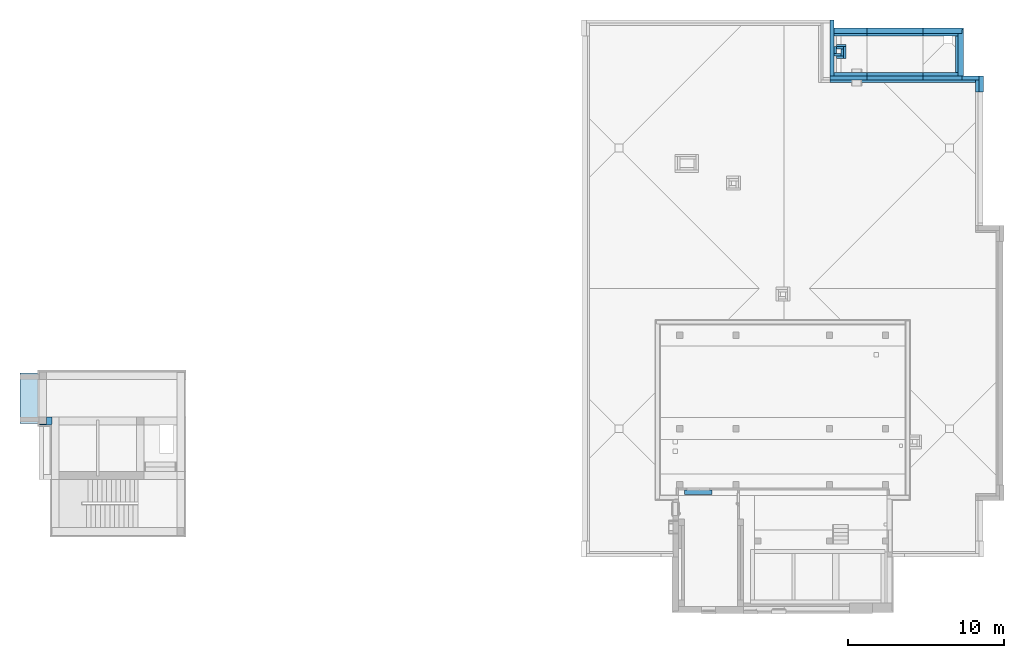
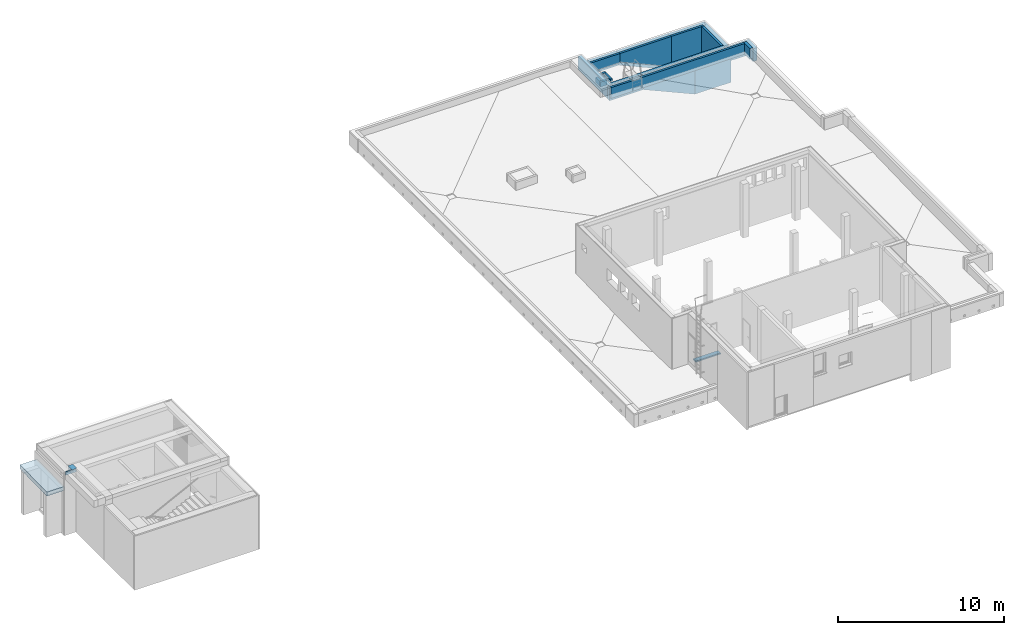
# One storey, part 8 of 17: 27 walls, 1 roof, 1 stair, 8 openings.
"""IFC4 building model written with IfcOpenShell, lengths in metres."""

from ifc_helpers import new_model, entity, si_unit, converted_unit, derived_unit, frame, frame_2d, origin, origin_with_axes, place, context, subcontext, project, spatial, polyline, rectangle, outline, extrude, clip, halfspace, faceted_brep, material, layer, layer_set, layer_usage, element, save


model = new_model("IFC4")

# Units and contexts
model_context = context("Model", 3, precision=1e-05, world=origin())
body_context = subcontext(model_context, "Body", "Model", "MODEL_VIEW")
ifc_project = project(units=[si_unit("LENGTHUNIT", "METRE"), si_unit("AREAUNIT", "SQUARE_METRE"), si_unit("VOLUMEUNIT", "CUBIC_METRE"), si_unit("MASSUNIT", "GRAM", prefix="KILO"), converted_unit("PLANEANGLEUNIT", "DEGREE", entity("IfcPlaneAngleMeasure", 0.0174532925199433), si_unit("PLANEANGLEUNIT", "RADIAN"), dimensions=[0, 0, 0, 0, 0, 0, 0]), derived_unit("THERMALTRANSMITTANCEUNIT", [(si_unit("POWERUNIT", "WATT"), 1), (si_unit("THERMODYNAMICTEMPERATUREUNIT", "KELVIN"), -1), (si_unit("LENGTHUNIT", "METRE"), -2)]), derived_unit("VOLUMETRICFLOWRATEUNIT", [(si_unit("LENGTHUNIT", "METRE"), 3), (converted_unit("TIMEUNIT", "hour", entity("IfcTimeMeasure", 3600.0), si_unit("TIMEUNIT", "SECOND"), dimensions=[0, 0, 1, 0, 0, 0, 0]), -1), (si_unit("LENGTHUNIT", "METRE"), -1)])], contexts=[model_context])

# Site, building, storey
site_placement = place(None, origin())
site = spatial("IfcSite", under=ifc_project, at=site_placement, Name="3. ASŘ", CompositionType="ELEMENT")
building_placement = place(site_placement, origin())
building = spatial("IfcBuilding", under=site, at=building_placement, Name="Pavilon C", CompositionType="ELEMENT")
storey_placement = place(building_placement, frame((0.0, 0.0, 13.8)))
storey = spatial("IfcBuildingStorey", under=building, at=storey_placement, Name="Půdorys 5.NP", CompositionType="ELEMENT", Elevation=13.8)

# Walls
ifc_material_1 = material(Name="EPS")
ifc_layer_1 = layer(ifc_material_1, 0.1)
ifc_material_2 = material(Name="ZDIVO Z CDm")
ifc_layer_2 = layer(ifc_material_2, 0.25)
ifc_layer_set_1 = layer_set([ifc_layer_1, ifc_layer_2])
ifc_layer_usage_1 = layer_usage(ifc_layer_set_1, "AXIS2", "POSITIVE", -0.1)
wall_1_placement = place(storey_placement, frame((46.35, 32.9, -1.7), z_axis=(0.0, 0.0, 1.0), x_axis=(-1.0, 0.0, 0.0)))
element("IfcWall", 1, at=wall_1_placement, inside=storey, material=ifc_layer_usage_1, Name="ZDIVO Z CDm", context=body_context, shape_type="Clipping", body=[
    clip(extrude(rectangle(XDim=3.6, YDim=0.35, at=frame_2d((1.8, 0.175), x_axis=(1.0, 0.0))), origin_with_axes(), (0.0, 0.0, 1.0), 2.45), halfspace(frame((1.8, 0.175, 0.8), z_axis=(-0.406138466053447, 0.0, 0.913811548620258), x_axis=(-0.913811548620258, 0.0, -0.406138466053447)), True)),
])
ifc_material_3 = material(Name="EPS")
ifc_layer_3 = layer(ifc_material_3, 0.1)
ifc_material_4 = material(Name="ZDIVO Z CDm")
ifc_layer_4 = layer(ifc_material_4, 0.25)
ifc_layer_set_2 = layer_set([ifc_layer_3, ifc_layer_4])
ifc_layer_usage_2 = layer_usage(ifc_layer_set_2, "AXIS2", "POSITIVE", -0.1)
wall_2_placement = place(storey_placement, frame((48.95, 32.9, -1.7), z_axis=(0.0, 0.0, 1.0), x_axis=(-1.0, 0.0, 0.0)))
element("IfcWall", 2, at=wall_2_placement, inside=storey, material=ifc_layer_usage_2, Name="ZDIVO Z CDm", context=body_context, shape_type="SweptSolid", body=[
    extrude(outline(polyline([(-2.5, 0.0), (-2.5, -0.25), (-2.6, -0.25), (-2.6, -0.35), (0.0, -0.35), (0.0, 0.0), (-2.5, 0.0)])), frame((2.6, 0.35, 0.0), z_axis=(0.0, 0.0, 1.0), x_axis=(1.0, 0.0, 0.0)), (0.0, 0.0, 1.0), 2.45),
])
ifc_material_5 = material(Name="EPS")
ifc_layer_5 = layer(ifc_material_5, 0.1)
ifc_material_6 = material(Name="ZDIVO Z CDm")
ifc_layer_6 = layer(ifc_material_6, 0.25)
ifc_layer_set_3 = layer_set([ifc_layer_5, ifc_layer_6])
ifc_layer_usage_3 = layer_usage(ifc_layer_set_3, "AXIS2", "POSITIVE", -0.1)
wall_3_placement = place(storey_placement, frame((48.95, 29.82, -1.7), z_axis=(0.0, 0.0, 1.0), x_axis=(0.0, 1.0, 0.0)))
element("IfcWall", 3, at=wall_3_placement, inside=storey, material=ifc_layer_usage_3, Name="ZDIVO Z CDm", context=body_context, shape_type="SweptSolid", body=[
    extrude(outline(polyline([(0.0, -0.35), (2.98, -0.35), (2.98, -0.25), (2.73, -0.25), (2.73, 0.0), (0.0, 0.0), (0.0, -0.35)])), frame((0.0, 0.35, 0.0), z_axis=(0.0, 0.0, 1.0), x_axis=(1.0, 0.0, 0.0)), (0.0, 0.0, 1.0), 2.45),
])
ifc_material_7 = material(Name="ZDIVO Z CDm")
ifc_layer_7 = layer(ifc_material_7, 0.150000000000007)
ifc_layer_set_4 = layer_set([ifc_layer_7])
ifc_layer_usage_4 = layer_usage(ifc_layer_set_4, "AXIS2", "POSITIVE", 0.0)
wall_4_placement = place(storey_placement, frame((41.1, 31.2554635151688, -0.1), z_axis=(0.0, 0.0, 1.0), x_axis=(-1.0, 0.0, 0.0)))
element("IfcWall", 4, at=wall_4_placement, inside=storey, material=ifc_layer_usage_4, Name="ZDIVO Z CDm", context=body_context, shape_type="SweptSolid", body=[
    extrude(rectangle(XDim=0.449999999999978, YDim=0.150000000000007, at=frame_2d((0.224999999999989, 0.0750000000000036), x_axis=(1.0, 0.0))), origin_with_axes(), (0.0, 0.0, 1.0), 0.35),
])
ifc_material_8 = material(Name="ZDIVO Z CDm")
ifc_layer_8 = layer(ifc_material_8, 0.150000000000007)
ifc_layer_set_5 = layer_set([ifc_layer_8])
ifc_layer_usage_5 = layer_usage(ifc_layer_set_5, "AXIS2", "POSITIVE", 0.0)
wall_5_placement = place(storey_placement, frame((41.25, 31.1054635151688, -0.1), z_axis=(0.0, 0.0, 1.0), x_axis=(0.0, 1.0, 0.0)))
element("IfcWall", 5, at=wall_5_placement, inside=storey, material=ifc_layer_usage_5, Name="ZDIVO Z CDm", context=body_context, shape_type="SweptSolid", body=[
    extrude(rectangle(XDim=0.450000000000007, YDim=0.150000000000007, at=frame_2d((0.225000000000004, 0.0750000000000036), x_axis=(1.0, 0.0))), origin_with_axes(), (0.0, 0.0, 1.0), 0.35),
])
ifc_material_9 = material(Name="ZDIVO Z CDm")
ifc_layer_9 = layer(ifc_material_9, 0.150000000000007)
ifc_layer_set_6 = layer_set([ifc_layer_9])
ifc_layer_usage_6 = layer_usage(ifc_layer_set_6, "AXIS2", "POSITIVE", 0.0)
wall_6_placement = place(storey_placement, frame((40.8, 31.5554635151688, -0.1)))
element("IfcWall", 6, at=wall_6_placement, inside=storey, material=ifc_layer_usage_6, Name="ZDIVO Z CDm", context=body_context, shape_type="SweptSolid", body=[
    extrude(rectangle(XDim=0.449999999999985, YDim=0.150000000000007, at=frame_2d((0.224999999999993, 0.0750000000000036), x_axis=(1.0, 0.0))), origin_with_axes(), (0.0, 0.0, 1.0), 0.35),
])
ifc_material_10 = material(Name="ZDIVO Z CDm")
ifc_layer_10 = layer(ifc_material_10, 0.150000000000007)
ifc_layer_set_7 = layer_set([ifc_layer_10])
ifc_layer_usage_7 = layer_usage(ifc_layer_set_7, "AXIS2", "POSITIVE", 0.0)
wall_7_placement = place(storey_placement, frame((40.8, 31.2554635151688, -0.1), z_axis=(0.0, 0.0, 1.0), x_axis=(0.0, 1.0, 0.0)))
element("IfcWall", 7, at=wall_7_placement, inside=storey, material=ifc_layer_usage_7, Name="ZDIVO Z CDm", context=body_context, shape_type="SweptSolid", body=[
    extrude(rectangle(XDim=0.450000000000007, YDim=0.150000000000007, at=frame_2d((0.225000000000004, 0.0750000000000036), x_axis=(1.0, 0.0))), origin_with_axes(), (0.0, 0.0, 1.0), 0.35),
])
ifc_material_11 = material(Name="EPS")
ifc_layer_11 = layer(ifc_material_11, 0.1)
ifc_material_12 = material(Name="ZDIVO Z CDm")
ifc_layer_12 = layer(ifc_material_12, 0.25)
ifc_layer_set_8 = layer_set([ifc_layer_11, ifc_layer_12])
ifc_layer_usage_8 = layer_usage(ifc_layer_set_8, "AXIS2", "POSITIVE", -0.1)
wall_8_placement = place(storey_placement, frame((42.75, 32.9, -0.1), z_axis=(0.0, 0.0, 1.0), x_axis=(-1.0, 0.0, 0.0)))
element("IfcWall", 8, at=wall_8_placement, inside=storey, material=ifc_layer_usage_8, Name="ZDIVO Z CDm", context=body_context, shape_type="SweptSolid", body=[
    extrude(rectangle(XDim=2.1, YDim=0.35, at=frame_2d((1.05, 0.175), x_axis=(1.0, 0.0))), origin_with_axes(), (0.0, 0.0, 1.0), 0.85),
])
ifc_material_13 = material(Name="ZDIVO Z CDm")
ifc_layer_13 = layer(ifc_material_13, 0.25)
ifc_layer_set_9 = layer_set([ifc_layer_13])
ifc_layer_usage_9 = layer_usage(ifc_layer_set_9, "AXIS2", "POSITIVE", 0.0)
wall_9_placement = place(storey_placement, frame((40.65, 29.82, -0.1), z_axis=(0.0, 0.0, 1.0), x_axis=(0.0, 1.0, 0.0)))
element("IfcWall", 9, at=wall_9_placement, inside=storey, material=ifc_layer_usage_9, Name="ZDIVO Z CDm", context=body_context, shape_type="SweptSolid", body=[
    extrude(rectangle(XDim=3.6, YDim=0.25, at=frame_2d((1.8, 0.125), x_axis=(1.0, 0.0))), origin_with_axes(), (0.0, 0.0, 1.0), 0.95),
])

# Wall, openings
ifc_material_14 = material(Name="ZDIVO Z CDm")
ifc_layer_14 = layer(ifc_material_14, 0.25)
ifc_layer_set_10 = layer_set([ifc_layer_14])
ifc_layer_usage_10 = layer_usage(ifc_layer_set_10, "AXIS2", "POSITIVE", 0.0)
wall_10_placement = place(storey_placement, frame((42.75, 29.82, -0.1), z_axis=(0.0, 0.0, 1.0), x_axis=(-1.0, 0.0, 0.0)))
wall_10 = element("IfcWall", 10, at=wall_10_placement, inside=storey, material=ifc_layer_usage_10, Name="ZDIVO Z CDm", context=body_context, shape_type="SweptSolid", body=[
    extrude(rectangle(XDim=2.35, YDim=0.25, at=frame_2d((1.175, 0.125), x_axis=(1.0, 0.0))), origin_with_axes(), (0.0, 0.0, 1.0), 0.95),
])
opening_1_placement = place(wall_10_placement, frame((0.325, 0.0, 0.15), z_axis=(0.0, 1.0, 0.0), x_axis=(0.0, 0.0, 1.0)))
element("IfcOpeningElement", 11, at=opening_1_placement, cuts=wall_10, Name="Prostup stěnou", ObjectType="Opening", context=body_context, shape_type="SweptSolid", body=[
    extrude(outline(polyline([(0.0, 0.15), (0.15, 0.15), (0.15, 0.0), (0.0, 0.0), (0.0, 0.15)])), origin_with_axes(), (0.0, 0.0, 1.0), 0.25),
])
opening_2_placement = place(wall_10_placement, frame((1.525, 0.0, 0.15), z_axis=(0.0, 1.0, 0.0), x_axis=(0.0, 0.0, 1.0)))
element("IfcOpeningElement", 12, at=opening_2_placement, cuts=wall_10, Name="Prostup stěnou", ObjectType="Opening", context=body_context, shape_type="SweptSolid", body=[
    extrude(outline(polyline([(0.0, 0.15), (0.15, 0.15), (0.15, 0.0), (0.0, 0.0), (0.0, 0.15)])), origin_with_axes(), (0.0, 0.0, 1.0), 0.25),
])

ifc_material_15 = material(Name="ZDIVO Z CDm")
ifc_layer_15 = layer(ifc_material_15, 0.25)
ifc_layer_set_11 = layer_set([ifc_layer_15])
ifc_layer_usage_11 = layer_usage(ifc_layer_set_11, "AXIS2", "POSITIVE", 0.0)
wall_11_placement = place(storey_placement, frame((46.35, 29.82, -1.7), z_axis=(0.0, 0.0, 1.0), x_axis=(-1.0, 0.0, 0.0)))
wall_11 = element("IfcWall", 13, at=wall_11_placement, inside=storey, material=ifc_layer_usage_11, Name="ZDIVO Z CDm", context=body_context, shape_type="Clipping", body=[
    clip(extrude(rectangle(XDim=3.6, YDim=0.25, at=frame_2d((1.8, 0.125), x_axis=(1.0, 0.0))), origin_with_axes(), (0.0, 0.0, 1.0), 2.55), halfspace(frame((1.8, 0.125, 0.8), z_axis=(-0.406138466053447, 0.0, 0.913811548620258), x_axis=(-0.913811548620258, 0.0, -0.406138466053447)), True)),
])
opening_3_placement = place(wall_11_placement, frame((2.725, 0.0, 1.75), z_axis=(0.0, 1.0, 0.0), x_axis=(0.0, 0.0, 1.0)))
element("IfcOpeningElement", 14, at=opening_3_placement, cuts=wall_11, Name="Prostup stěnou", ObjectType="Opening", context=body_context, shape_type="SweptSolid", body=[
    extrude(outline(polyline([(0.0, 0.15), (0.15, 0.15), (0.15, 0.0), (0.0, 0.0), (0.0, 0.15)])), origin_with_axes(), (0.0, 0.0, 1.0), 0.25),
])
opening_4_placement = place(wall_11_placement, frame((1.525, 0.0, 1.75), z_axis=(0.0, 1.0, 0.0), x_axis=(0.0, 0.0, 1.0)))
element("IfcOpeningElement", 15, at=opening_4_placement, cuts=wall_11, Name="Prostup stěnou", ObjectType="Opening", context=body_context, shape_type="SweptSolid", body=[
    extrude(outline(polyline([(0.0, 0.15), (0.15, 0.15), (0.15, 0.0), (0.0, 0.0), (0.0, 0.15)])), origin_with_axes(), (0.0, 0.0, 1.0), 0.25),
])
opening_5_placement = place(wall_11_placement, frame((0.325, 0.0, 1.75), z_axis=(0.0, 1.0, 0.0), x_axis=(0.0, 0.0, 1.0)))
element("IfcOpeningElement", 16, at=opening_5_placement, cuts=wall_11, Name="Prostup stěnou", ObjectType="Opening", context=body_context, shape_type="SweptSolid", body=[
    extrude(outline(polyline([(0.0, 0.15), (0.15, 0.15), (0.15, 0.0), (0.0, 0.0), (0.0, 0.15)])), origin_with_axes(), (0.0, 0.0, 1.0), 0.25),
])

ifc_material_16 = material(Name="ZDIVO Z CDm")
ifc_layer_16 = layer(ifc_material_16, 0.25)
ifc_layer_set_12 = layer_set([ifc_layer_16])
ifc_layer_usage_12 = layer_usage(ifc_layer_set_12, "AXIS2", "POSITIVE", 0.0)
wall_12_placement = place(storey_placement, frame((48.85, 29.82, -1.7), z_axis=(0.0, 0.0, 1.0), x_axis=(-1.0, 0.0, 0.0)))
wall_12 = element("IfcWall", 17, at=wall_12_placement, inside=storey, material=ifc_layer_usage_12, Name="ZDIVO Z CDm", context=body_context, shape_type="SweptSolid", body=[
    extrude(rectangle(XDim=2.5, YDim=0.25, at=frame_2d((1.25, 0.125), x_axis=(1.0, 0.0))), origin_with_axes(), (0.0, 0.0, 1.0), 2.55),
])
opening_6_placement = place(wall_12_placement, frame((0.425, 0.0, 1.75), z_axis=(0.0, 1.0, 0.0), x_axis=(0.0, 0.0, 1.0)))
element("IfcOpeningElement", 18, at=opening_6_placement, cuts=wall_12, Name="Prostup stěnou", ObjectType="Opening", context=body_context, shape_type="SweptSolid", body=[
    extrude(outline(polyline([(0.0, 0.15), (0.15, 0.15), (0.15, 0.0), (0.0, 0.0), (0.0, 0.15)])), origin_with_axes(), (0.0, 0.0, 1.0), 0.25),
])
opening_7_placement = place(wall_12_placement, frame((1.625, 0.0, 1.75), z_axis=(0.0, 1.0, 0.0), x_axis=(0.0, 0.0, 1.0)))
element("IfcOpeningElement", 19, at=opening_7_placement, cuts=wall_12, Name="Prostup stěnou", ObjectType="Opening", context=body_context, shape_type="SweptSolid", body=[
    extrude(outline(polyline([(0.0, 0.15), (0.15, 0.15), (0.15, 0.0), (0.0, 0.0), (0.0, 0.15)])), origin_with_axes(), (0.0, 0.0, 1.0), 0.25),
])

# Wall
ifc_material_17 = material(Name="ZELEZOBETONOVÁ KCE")
ifc_layer_17 = layer(ifc_material_17, 0.3)
ifc_layer_set_13 = layer_set([ifc_layer_17])
ifc_layer_usage_13 = layer_usage(ifc_layer_set_13, "AXIS2", "POSITIVE", 0.0)
wall_13_placement = place(storey_placement, frame((50.25, 28.8, -0.1), z_axis=(0.0, 0.0, 1.0), x_axis=(0.0, 1.0, 0.0)))
element("IfcWall", 20, at=wall_13_placement, inside=storey, material=ifc_layer_usage_13, Name="ZELEZOBETONOVÁ KCE", context=body_context, shape_type="SweptSolid", body=[
    extrude(rectangle(XDim=1.02, YDim=0.3, at=frame_2d((0.51, 0.15), x_axis=(1.0, 0.0))), origin_with_axes(), (0.0, 0.0, 1.0), 0.95),
])

# Wall, opening
ifc_material_18 = material(Name="ZDIVO Z CDm")
ifc_layer_18 = layer(ifc_material_18, 0.25)
ifc_layer_set_14 = layer_set([ifc_layer_18])
ifc_layer_usage_14 = layer_usage(ifc_layer_set_14, "AXIS2", "POSITIVE", 0.0)
wall_14_placement = place(storey_placement, frame((49.95, 29.82, -0.1), z_axis=(0.0, 0.0, 1.0), x_axis=(-1.0, 0.0, 0.0)))
wall_14 = element("IfcWall", 21, at=wall_14_placement, inside=storey, material=ifc_layer_usage_14, Name="ZDIVO Z CDm", context=body_context, shape_type="SweptSolid", body=[
    extrude(rectangle(XDim=1.1, YDim=0.25, at=frame_2d((0.55, 0.125), x_axis=(1.0, 0.0))), origin_with_axes(), (0.0, 0.0, 1.0), 0.95),
])
opening_8_placement = place(wall_14_placement, frame((0.325, 0.0, 0.15), z_axis=(0.0, 1.0, 0.0), x_axis=(0.0, 0.0, 1.0)))
element("IfcOpeningElement", 22, at=opening_8_placement, cuts=wall_14, Name="Prostup stěnou", ObjectType="Opening", context=body_context, shape_type="SweptSolid", body=[
    extrude(outline(polyline([(0.0, 0.15), (0.15, 0.15), (0.15, 0.0), (0.0, 0.0), (0.0, 0.15)])), origin_with_axes(), (0.0, 0.0, 1.0), 0.25),
])

# Walls
ifc_material_19 = material(Name="ZELEZOBETONOVÁ KCE")
ifc_layer_19 = layer(ifc_material_19, 0.45)
ifc_material_20 = material(Name="LIGNOPOR")
ifc_layer_20 = layer(ifc_material_20, 0.05)
ifc_layer_set_15 = layer_set([ifc_layer_19, ifc_layer_20])
ifc_layer_usage_15 = layer_usage(ifc_layer_set_15, "AXIS2", "POSITIVE", 0.0)
wall_15_placement = place(storey_placement, frame((-9.52499999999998, 7.95, 3.45), z_axis=(0.0, 0.0, 1.0), x_axis=(-1.0, 0.0, 0.0)))
element("IfcWall", 23, at=wall_15_placement, inside=storey, material=ifc_layer_usage_15, context=body_context, shape_type="SweptSolid", body=[
    extrude(outline(polyline([(-0.799999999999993, -0.5), (-0.45, -0.5), (-0.45, -0.05), (0.0, -0.05), (0.0, 0.0), (-0.75, 0.0), (-0.75, -0.05), (-0.799999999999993, -0.05), (-0.799999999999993, -0.5)])), frame((0.799999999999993, 0.5, 0.0), z_axis=(0.0, 0.0, 1.0), x_axis=(1.0, 0.0, 0.0)), (0.0, 0.0, 1.0), 0.25),
])
ifc_material_21 = material(Name="MINERÁLNÍ VATA")
ifc_layer_21 = layer(ifc_material_21, 0.22)
ifc_layer_set_16 = layer_set([ifc_layer_21])
ifc_layer_usage_16 = layer_usage(ifc_layer_set_16, "AXIS2", "POSITIVE", 0.0)
wall_16_placement = place(storey_placement, frame((49.95, 28.8, 0.16), z_axis=(0.0, 0.0, 1.0), x_axis=(0.0, 1.0, 0.0)))
element("IfcWall", 24, at=wall_16_placement, inside=storey, material=ifc_layer_usage_16, Name="MINERÁLNÍ VATA", context=body_context, shape_type="SweptSolid", body=[
    extrude(rectangle(XDim=0.77, YDim=0.22, at=frame_2d((0.385, 0.11), x_axis=(1.0, 0.0))), origin_with_axes(), (0.0, 0.0, 1.0), 0.790000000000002),
])
ifc_material_22 = material(Name="MINERÁLNÍ VATA")
ifc_layer_22 = layer(ifc_material_22, 0.15)
ifc_layer_set_17 = layer_set([ifc_layer_22])
ifc_layer_usage_17 = layer_usage(ifc_layer_set_17, "AXIS2", "POSITIVE", 0.0)
wall_17_placement = place(storey_placement, frame((49.73, 29.57, 0.16), z_axis=(0.0, 0.0, 1.0), x_axis=(-1.0, 0.0, 0.0)))
element("IfcWall", 25, at=wall_17_placement, inside=storey, material=ifc_layer_usage_17, Name="MINERÁLNÍ VATA", context=body_context, shape_type="SweptSolid", body=[
    extrude(rectangle(XDim=9.33, YDim=0.15, at=frame_2d((4.665, 0.075), x_axis=(1.0, 0.0))), origin_with_axes(), (0.0, 0.0, 1.0), 0.790000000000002),
])
ifc_material_23 = material(Name="MINERÁLNÍ VATA")
ifc_layer_23 = layer(ifc_material_23, 0.15)
ifc_layer_set_18 = layer_set([ifc_layer_23])
ifc_layer_usage_18 = layer_usage(ifc_layer_set_18, "AXIS2", "POSITIVE", 0.0)
wall_18_placement = place(storey_placement, frame((40.8, 31.7054635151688, 0.16)))
element("IfcWall", 26, at=wall_18_placement, inside=storey, material=ifc_layer_usage_18, Name="MINERÁLNÍ VATA", context=body_context, shape_type="SweptSolid", body=[
    extrude(rectangle(XDim=0.599999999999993, YDim=0.15, at=frame_2d((0.299999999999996, 0.075), x_axis=(1.0, 0.0))), origin_with_axes(), (0.0, 0.0, 1.0), 0.19),
])
ifc_material_24 = material(Name="MINERÁLNÍ VATA")
ifc_layer_24 = layer(ifc_material_24, 0.15)
ifc_layer_set_19 = layer_set([ifc_layer_24])
ifc_layer_usage_19 = layer_usage(ifc_layer_set_19, "AXIS2", "POSITIVE", 0.0)
wall_19_placement = place(storey_placement, frame((41.25, 31.7054635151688, 0.16), z_axis=(0.0, 0.0, 1.0), x_axis=(0.0, -1.0, 0.0)))
element("IfcWall", 27, at=wall_19_placement, inside=storey, material=ifc_layer_usage_19, Name="MINERÁLNÍ VATA", context=body_context, shape_type="SweptSolid", body=[
    extrude(rectangle(XDim=0.750000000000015, YDim=0.15, at=frame_2d((0.375000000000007, 0.075), x_axis=(1.0, 0.0))), origin_with_axes(), (0.0, 0.0, 1.0), 0.19),
])
ifc_material_25 = material(Name="MINERÁLNÍ VATA")
ifc_layer_25 = layer(ifc_material_25, 0.15)
ifc_layer_set_20 = layer_set([ifc_layer_25])
ifc_layer_usage_20 = layer_usage(ifc_layer_set_20, "AXIS2", "POSITIVE", 0.0)
wall_20_placement = place(storey_placement, frame((41.25, 31.1054635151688, 0.16), z_axis=(0.0, 0.0, 1.0), x_axis=(-1.0, 0.0, 0.0)))
element("IfcWall", 28, at=wall_20_placement, inside=storey, material=ifc_layer_usage_20, Name="MINERÁLNÍ VATA", context=body_context, shape_type="SweptSolid", body=[
    extrude(rectangle(XDim=0.449999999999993, YDim=0.15, at=frame_2d((0.224999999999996, 0.075), x_axis=(1.0, 0.0))), origin_with_axes(), (0.0, 0.0, 1.0), 0.19),
])
ifc_material_26 = material(Name="MINERÁLNÍ VATA")
ifc_layer_26 = layer(ifc_material_26, 0.15)
ifc_layer_set_21 = layer_set([ifc_layer_26])
ifc_layer_usage_21 = layer_usage(ifc_layer_set_21, "AXIS2", "POSITIVE", 0.0)
wall_21_placement = place(storey_placement, frame((40.65, 32.4, 0.16)))
element("IfcWall", 29, at=wall_21_placement, inside=storey, material=ifc_layer_usage_21, Name="MINERÁLNÍ VATA", context=body_context, shape_type="SweptSolid", body=[
    extrude(rectangle(XDim=2.1, YDim=0.15, at=frame_2d((1.05, 0.075), x_axis=(1.0, 0.0))), origin_with_axes(), (0.0, 0.0, 1.0), 0.69),
])
ifc_material_27 = material(Name="MINERÁLNÍ VATA")
ifc_layer_27 = layer(ifc_material_27, 0.15)
ifc_layer_set_22 = layer_set([ifc_layer_27])
ifc_layer_usage_22 = layer_usage(ifc_layer_set_22, "AXIS2", "POSITIVE", 0.0)
wall_22_placement = place(storey_placement, frame((42.75, 32.4, -1.39400000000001)))
element("IfcWall", 30, at=wall_22_placement, inside=storey, material=ifc_layer_usage_22, Name="MINERÁLNÍ VATA", context=body_context, shape_type="Clipping", body=[
    clip(extrude(rectangle(XDim=3.6, YDim=0.15, at=frame_2d((1.8, 0.075), x_axis=(1.0, 0.0))), origin_with_axes(), (0.0, 0.0, 1.0), 2.24400000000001), halfspace(frame((1.8, 0.075, 0.800000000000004), z_axis=(0.406138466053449, -5.52839905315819e-15, 0.913811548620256), x_axis=(0.913811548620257, 0.0, -0.406138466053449)), True)),
])
ifc_material_28 = material(Name="MINERÁLNÍ VATA")
ifc_layer_28 = layer(ifc_material_28, 0.15)
ifc_layer_set_23 = layer_set([ifc_layer_28])
ifc_layer_usage_23 = layer_usage(ifc_layer_set_23, "AXIS2", "POSITIVE", 0.0)
wall_23_placement = place(storey_placement, frame((46.35, 32.4, -1.44)))
element("IfcWall", 31, at=wall_23_placement, inside=storey, material=ifc_layer_usage_23, Name="MINERÁLNÍ VATA", context=body_context, shape_type="SweptSolid", body=[
    extrude(rectangle(XDim=2.25, YDim=0.15, at=frame_2d((1.125, 0.075), x_axis=(1.0, 0.0))), origin_with_axes(), (0.0, 0.0, 1.0), 2.29),
])
ifc_material_29 = material(Name="MINERÁLNÍ VATA")
ifc_layer_29 = layer(ifc_material_29, 0.15)
ifc_layer_set_24 = layer_set([ifc_layer_29])
ifc_layer_usage_24 = layer_usage(ifc_layer_set_24, "AXIS2", "POSITIVE", 0.0)
wall_24_placement = place(storey_placement, frame((48.6, 30.04, -1.44), z_axis=(0.0, 0.0, 1.0), x_axis=(0.0, 1.0, 0.0)))
element("IfcWall", 32, at=wall_24_placement, inside=storey, material=ifc_layer_usage_24, Name="MINERÁLNÍ VATA", context=body_context, shape_type="SweptSolid", body=[
    extrude(rectangle(XDim=2.36, YDim=0.15, at=frame_2d((1.18, 0.075), x_axis=(1.0, 0.0))), origin_with_axes(), (0.0, 0.0, 1.0), 2.29),
])
ifc_material_30 = material(Name="MINERÁLNÍ VATA")
ifc_layer_30 = layer(ifc_material_30, 0.22)
ifc_layer_set_25 = layer_set([ifc_layer_30])
ifc_layer_usage_25 = layer_usage(ifc_layer_set_25, "AXIS2", "POSITIVE", 0.0)
wall_25_placement = place(storey_placement, frame((40.65, 29.82, 0.16)))
element("IfcWall", 33, at=wall_25_placement, inside=storey, material=ifc_layer_usage_25, Name="MINERÁLNÍ VATA", context=body_context, shape_type="SweptSolid", body=[
    extrude(rectangle(XDim=2.1, YDim=0.22, at=frame_2d((1.05, 0.11), x_axis=(1.0, 0.0))), origin_with_axes(), (0.0, 0.0, 1.0), 0.69),
])
ifc_material_31 = material(Name="MINERÁLNÍ VATA")
ifc_layer_31 = layer(ifc_material_31, 0.22)
ifc_layer_set_26 = layer_set([ifc_layer_31])
ifc_layer_usage_26 = layer_usage(ifc_layer_set_26, "AXIS2", "POSITIVE", 0.0)
wall_26_placement = place(storey_placement, frame((46.35, 29.82, -1.44)))
element("IfcWall", 34, at=wall_26_placement, inside=storey, material=ifc_layer_usage_26, Name="MINERÁLNÍ VATA", context=body_context, shape_type="SweptSolid", body=[
    extrude(rectangle(XDim=2.25, YDim=0.22, at=frame_2d((1.125, 0.11), x_axis=(1.0, 0.0))), origin_with_axes(), (0.0, 0.0, 1.0), 2.29),
])
ifc_material_32 = material(Name="MINERÁLNÍ VATA")
ifc_layer_32 = layer(ifc_material_32, 0.22)
ifc_layer_set_27 = layer_set([ifc_layer_32])
ifc_layer_usage_27 = layer_usage(ifc_layer_set_27, "AXIS2", "POSITIVE", 0.0)
wall_27_placement = place(storey_placement, frame((42.75, 29.82, -1.39400000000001)))
element("IfcWall", 35, at=wall_27_placement, inside=storey, material=ifc_layer_usage_27, Name="MINERÁLNÍ VATA", context=body_context, shape_type="Clipping", body=[
    clip(extrude(rectangle(XDim=3.6, YDim=0.22, at=frame_2d((1.8, 0.11), x_axis=(1.0, 0.0))), origin_with_axes(), (0.0, 0.0, 1.0), 2.24400000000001), halfspace(frame((1.8, 0.11, 0.800000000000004), z_axis=(0.406138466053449, 0.0, 0.913811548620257), x_axis=(-0.913811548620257, 0.0, 0.406138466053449)), True)),
])

# Stair
ifc_material_33 = material(Name="Pøímé schodi\x9atì")
stair_placement = place(storey_placement, frame((31.05, 2.975, 0.0)))
element("IfcStair", 36, at=stair_placement, inside=storey, material=ifc_material_33, PredefinedType="NOTDEFINED", context=body_context, shape_type="Brep", body=[
    faceted_brep([(0.0, 0.3, 0.0), (0.0, 0.0, 0.0), (1.75, 0.0, 0.0), (1.75, 0.3, 0.0), (0.0, 0.0, 0.1), (0.0, 0.3, 0.1), (1.75, 0.3, 0.1), (1.75, 0.0, 0.1)], [[[0, 1, 2, 3]], [[4, 5, 6, 7]], [[1, 0, 5, 4]], [[2, 1, 4, 7]], [[3, 2, 7, 6]], [[0, 3, 6, 5]]], orient=[[False], [False], [False], [False], [False], [False]]),
])

# Roof
ifc_material_34 = material(Name="STŘECHA + PLECHOVÁ KRYTINA")
roof_placement = place(storey_placement, frame((-11.585, 7.52, 2.30003527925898)))
element("IfcRoof", 37, at=roof_placement, inside=storey, material=ifc_material_34, PredefinedType="NOTDEFINED", context=body_context, shape_type="Brep", body=[
    faceted_brep([(0.0, 0.00460068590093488, -1.81898940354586e-15), (1.21, 0.00460068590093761, -1.81898940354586e-15), (1.21, 3.26, 0.0499294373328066), (0.0, 3.26, 0.0499294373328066), (0.0, -9.09494701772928e-16, 0.299964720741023), (0.0, 3.26, 0.349964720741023), (1.21, 3.26, 0.349964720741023), (1.21, 1.81898940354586e-15, 0.299964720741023)], [[[0, 1, 2, 3]], [[4, 5, 6, 7]], [[4, 7, 1, 0]], [[7, 6, 2, 1]], [[6, 5, 3, 2]], [[5, 4, 0, 3]]], orient=[[False], [False], [False], [False], [False], [False]]),
])

save(model, "model.ifc")
